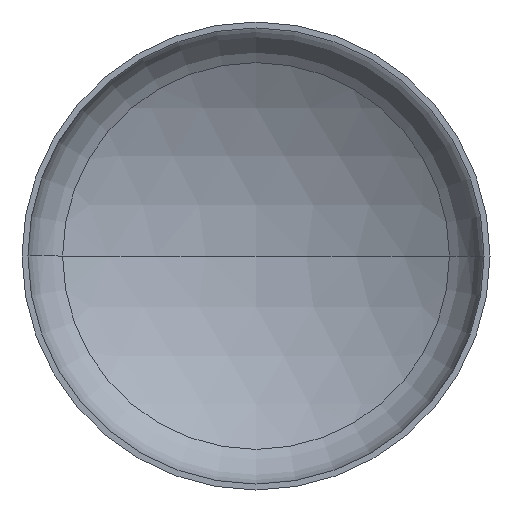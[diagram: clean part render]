
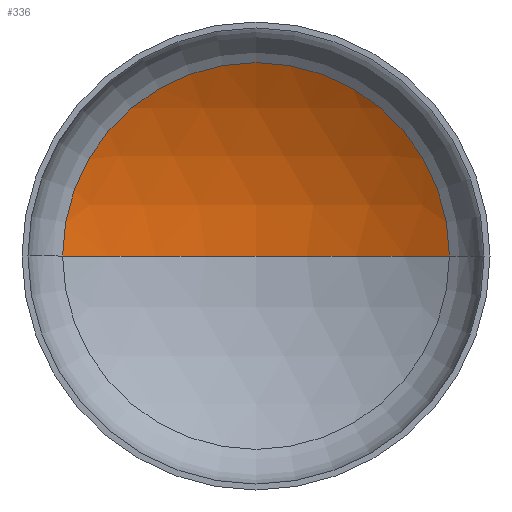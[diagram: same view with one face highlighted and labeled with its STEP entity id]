
A CAD part, front view. The second image highlights one B-rep face of the part: STEP entity #336.
In plain terms, the highlighted spherical face has radius 1200 mm.
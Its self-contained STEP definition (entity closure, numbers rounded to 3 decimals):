
#3 = CARTESIAN_POINT ( 'NONE',  ( 619.794, 256.947, 0. ) ) ;
#24 = EDGE_LOOP ( 'NONE', ( #136, #126, #46 ) ) ;
#28 = DIRECTION ( 'NONE',  ( 0., 0., -1. ) ) ;
#40 = AXIS2_PLACEMENT_3D ( 'NONE', #75, #28, #84 ) ;
#46 = ORIENTED_EDGE ( 'NONE', *, *, #113, .T. ) ;
#50 = AXIS2_PLACEMENT_3D ( 'NONE', #374, #237, #393 ) ;
#57 = AXIS2_PLACEMENT_3D ( 'NONE', #204, #205, #183 ) ;
#58 = AXIS2_PLACEMENT_3D ( 'NONE', #298, #220, #213 ) ;
#64 = VERTEX_POINT ( 'NONE', #247 ) ;
#75 = CARTESIAN_POINT ( 'NONE',  ( 0., -770.602, 0. ) ) ;
#84 = DIRECTION ( 'NONE',  ( -1., 0., 0. ) ) ;
#113 = EDGE_CURVE ( 'NONE', #141, #411, #116, .T. ) ;
#116 = CIRCLE ( 'NONE', #58, 619.794 ) ;
#119 = EDGE_CURVE ( 'NONE', #64, #141, #216, .T. ) ;
#120 = EDGE_CURVE ( 'NONE', #64, #411, #388, .T. ) ;
#126 = ORIENTED_EDGE ( 'NONE', *, *, #119, .T. ) ;
#136 = ORIENTED_EDGE ( 'NONE', *, *, #120, .F. ) ;
#141 = VERTEX_POINT ( 'NONE', #3 ) ;
#183 = DIRECTION ( 'NONE',  ( -1., 0., 0. ) ) ;
#186 = SPHERICAL_SURFACE ( 'NONE', #40, 1200. ) ;
#194 = FACE_OUTER_BOUND ( 'NONE', #24, .T. ) ;
#204 = CARTESIAN_POINT ( 'NONE',  ( 0., -770.602, 0. ) ) ;
#205 = DIRECTION ( 'NONE',  ( 0., 0., -1. ) ) ;
#213 = DIRECTION ( 'NONE',  ( 1., 0., 0. ) ) ;
#216 = CIRCLE ( 'NONE', #57, 1200. ) ;
#220 = DIRECTION ( 'NONE',  ( 0., -1., 0. ) ) ;
#237 = DIRECTION ( 'NONE',  ( 0., 0., 1. ) ) ;
#247 = CARTESIAN_POINT ( 'NONE',  ( 0., 429.398, 0. ) ) ;
#298 = CARTESIAN_POINT ( 'NONE',  ( 0., 256.947, 0. ) ) ;
#336 = ADVANCED_FACE ( 'NONE', ( #194 ), #186, .F. ) ;
#374 = CARTESIAN_POINT ( 'NONE',  ( 0., -770.602, 0. ) ) ;
#376 = CARTESIAN_POINT ( 'NONE',  ( -619.794, 256.947, 0. ) ) ;
#388 = CIRCLE ( 'NONE', #50, 1200. ) ;
#393 = DIRECTION ( 'NONE',  ( 1., 0., 0. ) ) ;
#411 = VERTEX_POINT ( 'NONE', #376 ) ;
